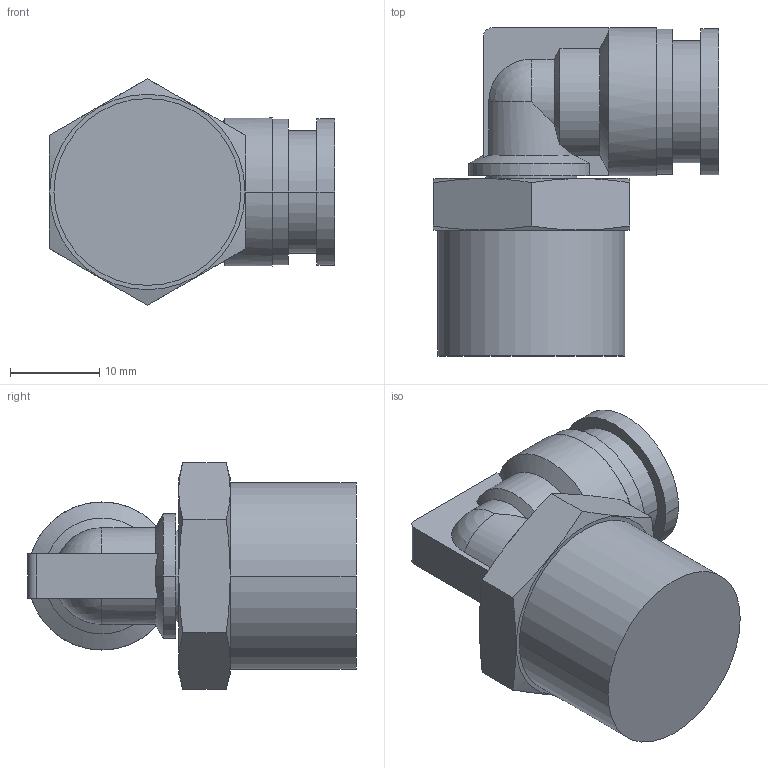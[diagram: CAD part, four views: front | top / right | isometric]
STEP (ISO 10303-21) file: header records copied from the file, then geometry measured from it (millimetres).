
FILE_DESCRIPTION( ( '' ), '1' );
FILE_NAME( 'G:/SMC狟婥/KQ2L10-04AS.stp', '2023-03-07T03:05:14', ( '' ), ( '' ), ' ', ' ', ' ' );
FILE_SCHEMA( ( 'CONFIG_CONTROL_DESIGN' ) );
Length unit declared in the file: millimetre
Products named in the file (1): 1
Bounding box: 32 x 36.8 x 25.4 mm (x, y, z)
Volume: 10510.5 mm3; surface area: 4477.8 mm2
Topology: 1 solids, 1 shells, 60 faces, 146 edges, 93 vertices
Faces by surface type: plane 25, cylinder 23, cone 10, sphere 2
Entity records: 1788 total; most frequent: CARTESIAN_POINT 384, DIRECTION 290, ORIENTED_EDGE 288, EDGE_CURVE 144, AXIS2_PLACEMENT_3D 119, VERTEX_POINT 93, EDGE_LOOP 67, ADVANCED_FACE 60
